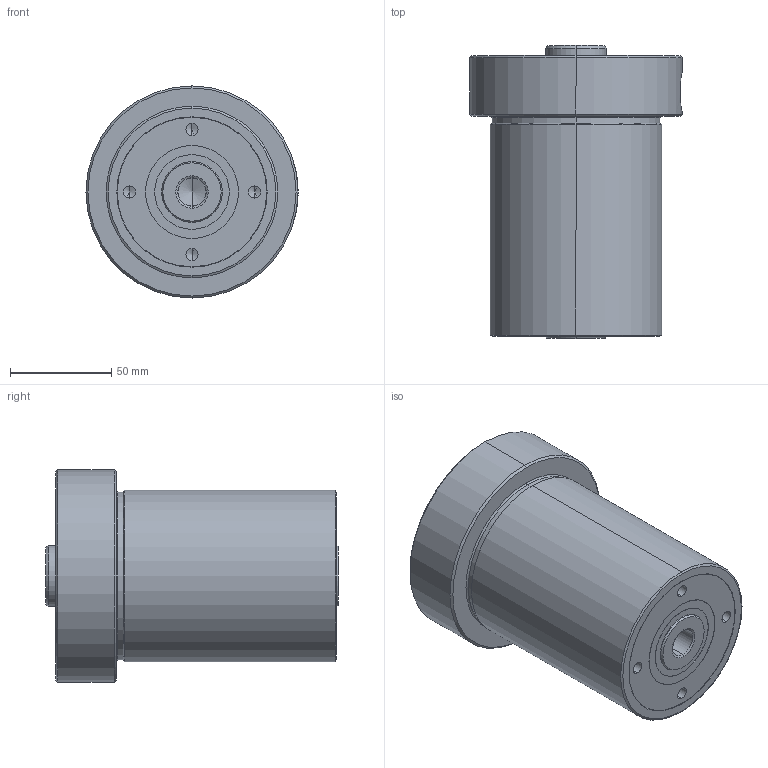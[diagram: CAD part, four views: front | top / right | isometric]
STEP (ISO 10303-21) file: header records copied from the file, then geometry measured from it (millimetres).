
FILE_DESCRIPTION (( 'STEP AP203' ), '1' );
FILE_NAME ('GERMA_Federspannzylinder_82-72-1.STEP', '2023-09-11T12:32:11', ( '' ), ( '' ), 'SwSTEP 2.0', 'SolidWorks 2016', '' );
FILE_SCHEMA (( 'CONFIG_CONTROL_DESIGN' ));
Length unit declared in the file: millimetre
Products named in the file (3): GH-82-72-1_GH-82-72-1; Kolben 82-72-1_Kolben-82-72-1; GERMA_Federspannzylinder_82-72-1
Assembly tree (2 placements, depth 2):
  GERMA_Federspannzylinder_82-72-1
    GH-82-72-1_GH-82-72-1
    Kolben 82-72-1_Kolben-82-72-1
Bounding box: 105 x 145 x 105 mm (x, y, z)
Volume: 846715.7 mm3; surface area: 108575.1 mm2
Topology: 2 solids, 2 shells, 135 faces, 288 edges, 166 vertices
Faces by surface type: cylinder 64, cone 46, plane 23, torus 2
Entity records: 3914 total; most frequent: DIRECTION 702, CARTESIAN_POINT 669, ORIENTED_EDGE 536, AXIS2_PLACEMENT_3D 296, EDGE_CURVE 268, VERTEX_POINT 166, EDGE_LOOP 166, CIRCLE 156
